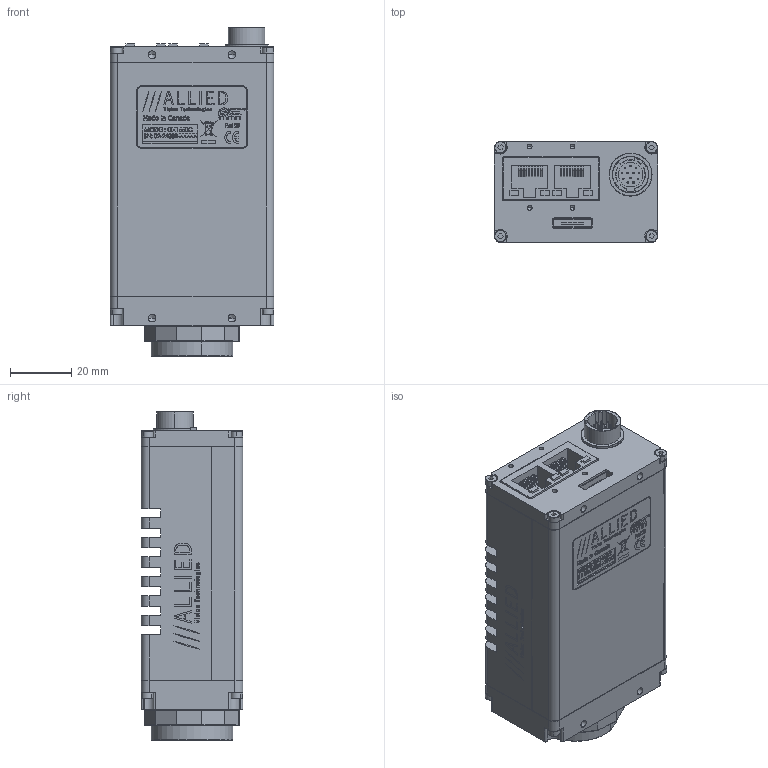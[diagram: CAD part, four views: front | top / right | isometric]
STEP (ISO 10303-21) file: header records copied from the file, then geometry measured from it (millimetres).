
FILE_DESCRIPTION (( 'STEP AP214' ), '1' );
FILE_NAME ('GX1660C.STEP', '2013-08-07T18:04:05', ( '' ), ( '' ), 'SwSTEP 2.0', 'SolidWorks 2013', '' );
FILE_SCHEMA (( 'AUTOMOTIVE_DESIGN' ));
Length unit declared in the file: millimetre
Products named in the file (27): 110099B-GX BOTTOM COVER-THERMAL_Finished; 740113B-GX1660C THERMAL LABEL PRINT; 740102B-GX SERIES LABEL; 200114A-GX MAIN PCBA; 100168A - GX1660C FRONT ASSY; 260043-HALO HFJ12-1G16ER-L12RL; 110003AC-CV CMOUNT RING; 140061-SCREW SKT CAP M2x8 SS; 110031A-B EC-CCD LOCKING RING; 200115A-GX POWER PCBA; 110098A-GX FRONT PLATE; 260048-HIROSE 3260-8S3; 220140-KODAK KAI-02050-CBA; 110100B-GX TOP COVER-THERMAL_Finished; KODAK KAI-02050 WINDOW; KODAK KAI-02050 BODY; GX1660C; 100097A-IR FILTER ASSEMBLY 0.75 INCH; 110054AB-IR FILTER SUPPORT; 440002-IR CUT FILTER 22MM DIA; 110103A-GX CCD GASKET; 100172B - GX BODY ASSY-THERMAL; 100171A - GX BACK ASSY; 260034-HIROSE HR10A-10R-12PB NUT; 260034-HIROSE HR10A-10R-12PB; 110097A-GX BACK PLATE; 260034-HIROSE HR10A-10R-12PB WASHER
Assembly tree (33 placements, depth 4):
  GX1660C
    100172B - GX BODY ASSY-THERMAL
      110100B-GX TOP COVER-THERMAL_Finished
      200115A-GX POWER PCBA
        260048-HIROSE 3260-8S3
      140061-SCREW SKT CAP M2x8 SS  x4
      200114A-GX MAIN PCBA
        260043-HALO HFJ12-1G16ER-L12RL
      110099B-GX BOTTOM COVER-THERMAL_Finished
      100171A - GX BACK ASSY
        260034-HIROSE HR10A-10R-12PB WASHER
        110097A-GX BACK PLATE
        260034-HIROSE HR10A-10R-12PB
        260034-HIROSE HR10A-10R-12PB NUT
    140061-SCREW SKT CAP M2x8 SS  x4
    100168A - GX1660C FRONT ASSY
      110103A-GX CCD GASKET
      100097A-IR FILTER ASSEMBLY 0.75 INCH
        440002-IR CUT FILTER 22MM DIA
        110054AB-IR FILTER SUPPORT
      220140-KODAK KAI-02050-CBA
        KODAK KAI-02050 BODY
        KODAK KAI-02050 WINDOW
      110098A-GX FRONT PLATE
      110031A-B EC-CCD LOCKING RING
      110003AC-CV CMOUNT RING
    740102B-GX SERIES LABEL
    740113B-GX1660C THERMAL LABEL PRINT
Bounding box: 53.39 x 33.02 x 107.17 mm (x, y, z)
Volume: 80182 mm3; surface area: 73777.2 mm2
Topology: 70 solids, 70 shells, 4174 faces, 10790 edges, 7012 vertices
Faces by surface type: plane 2271, bspline 916, cylinder 725, cone 262
Entity records: 202288 total; most frequent: CARTESIAN_POINT 62410, ORIENTED_EDGE 20812, DIRECTION 16516, EDGE_CURVE 10406, VECTOR 6990, LINE 6990, VERTEX_POINT 6844, AXIS2_PLACEMENT_3D 4763
